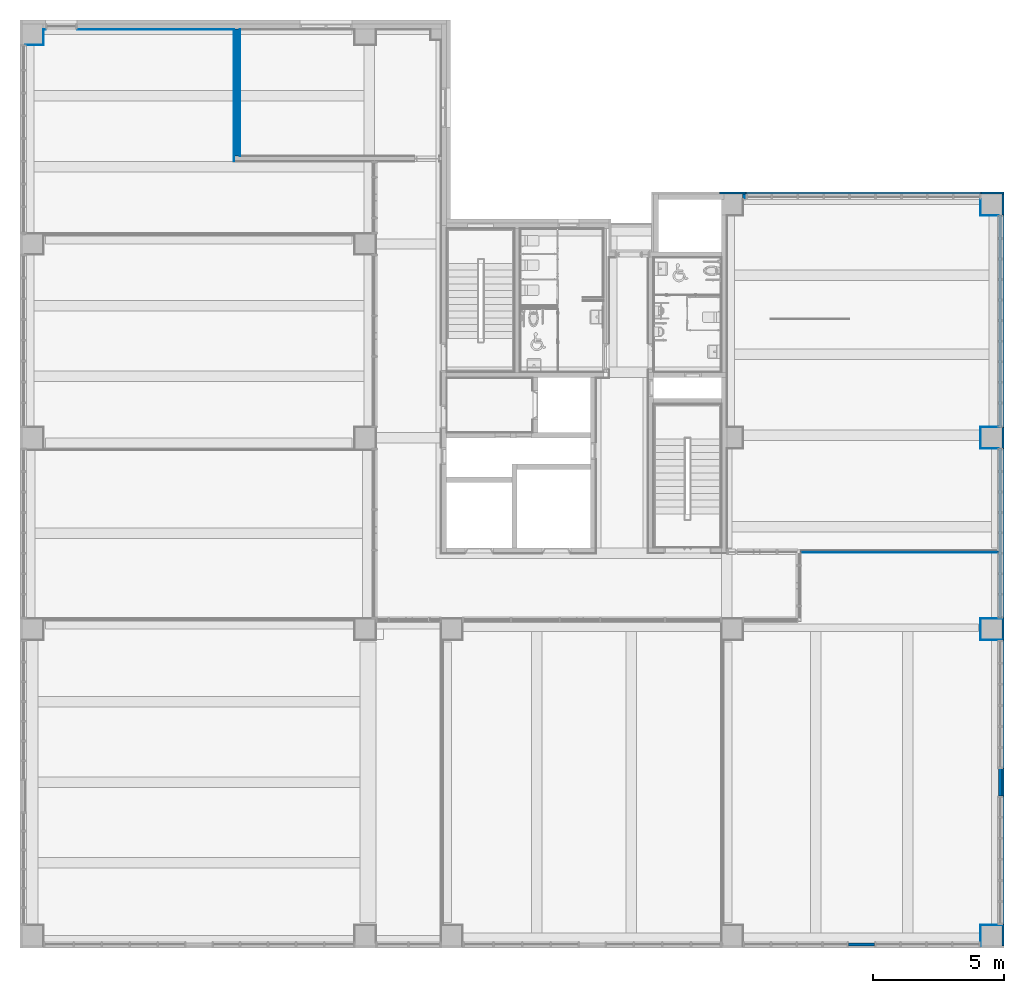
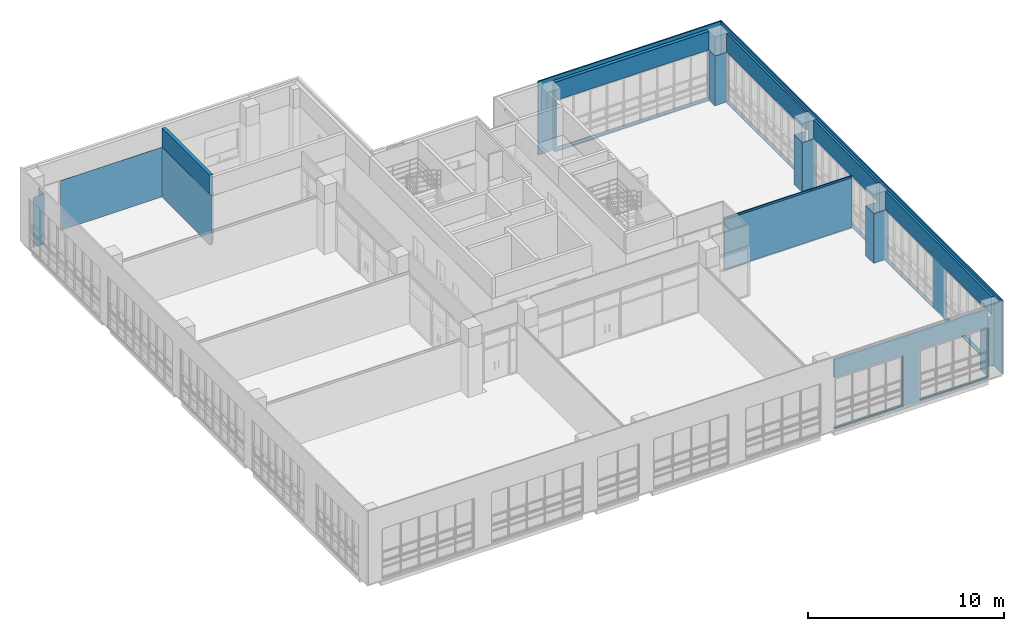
# One storey, part 62 of 74: 25 walls, 14 openings.
"""IFC2X3 building model written with IfcOpenShell, lengths in millimetres."""

import ifcopenshell
import ifcopenshell.guid

model = None  # the IFC model being written
_history = None  # IfcOwnerHistory: only IFC2X3 demands one
_inside = {}  # id of a spatial element -> (the spatial element, [elements in it])
_under = {}  # id of a project, library or spatial element -> (it, [spatial elements below it])
_declared = {}  # id of a project -> (the project, [libraries it declares])
_typed = {}  # id of a type object -> (the type object, [elements of that type])
_made_of = {}  # id of a material, layer set ... -> (it, [elements and type objects made of it])


def new_model(schema):
    """Start an empty IFC model of exactly this schema.

    Asked for "IFC4X3", IfcOpenShell would pick the latest addendum, in which some entities
    have other attributes; the version numbers below select the first issue.
    IFC2X3 requires an IfcOwnerHistory on every rooted entity: one is made here for all.
    """
    global model, _history
    if schema == "IFC4X3":
        model = ifcopenshell.file(schema_version=(4, 3, 0, 0))
    else:
        model = ifcopenshell.file(schema=schema)
    _inside.clear()
    _under.clear()
    _declared.clear()
    _typed.clear()
    _made_of.clear()
    _history = None
    if model.schema == "IFC2X3":
        org = make("IfcOrganization", Name="unknown")
        user = make(
            "IfcPersonAndOrganization",
            ThePerson=make("IfcPerson", FamilyName="unknown"),
            TheOrganization=org,
        )
        app = make(
            "IfcApplication",
            ApplicationDeveloper=org,
            Version="unknown",
            ApplicationFullName="unknown",
            ApplicationIdentifier="unknown",
        )
        _history = make(
            "IfcOwnerHistory",
            OwningUser=user,
            OwningApplication=app,
            ChangeAction="ADDED",
            CreationDate=0,
        )
    return model


def make(cls, **values):
    """One entity of the class cls with the attributes given. An attribute that is None is left unset."""
    return model.create_entity(
        cls, **{name: value for name, value in values.items() if value is not None}
    )


def entity(cls, *values):
    """Any entity or typed value of the class cls, its attributes in the order of the schema. None: left unset."""
    e = model.create_entity(cls)
    for i, value in enumerate(values):
        if value is not None:
            e[i] = value
    return e


def rooted(cls, **values):
    """An entity with a GlobalId (a new one), such as an element, a storey or a relation."""
    return make(cls, GlobalId=ifcopenshell.guid.new(), OwnerHistory=_history, **values)


def si_unit(unit_type, name, prefix=None):
    """IfcSIUnit, for example si_unit("LENGTHUNIT", "METRE", prefix="MILLI")."""
    return make("IfcSIUnit", UnitType=unit_type, Prefix=prefix, Name=name)


def converted_unit(unit_type, name, factor, base, dimensions=None, offset=None):
    """IfcConversionBasedUnit, such as the inch: factor (a typed value) times the base unit."""
    return make(
        "IfcConversionBasedUnit"
        if offset is None
        else "IfcConversionBasedUnitWithOffset",
        ConversionOffset=offset,
        Dimensions=None
        if dimensions is None
        else entity("IfcDimensionalExponents", *dimensions),
        UnitType=unit_type,
        Name=name,
        ConversionFactor=make(
            "IfcMeasureWithUnit", ValueComponent=factor, UnitComponent=base
        ),
    )


def derived_unit(unit_type, elements):
    """IfcDerivedUnit: a product of units, each with its exponent."""
    return make(
        "IfcDerivedUnit",
        Elements=[
            make("IfcDerivedUnitElement", Unit=unit, Exponent=power)
            for unit, power in elements
        ],
        UnitType=unit_type,
    )


def assignment(units):
    """IfcUnitAssignment: the units of a project."""
    return None if units is None else make("IfcUnitAssignment", Units=units)


def point(xyz):
    """IfcCartesianPoint."""
    return None if xyz is None else make("IfcCartesianPoint", Coordinates=xyz)


def direction(xyz):
    """IfcDirection."""
    return None if xyz is None else make("IfcDirection", DirectionRatios=xyz)


def frame(location, z_axis=None, x_axis=None):
    """IfcAxis2Placement3D, a coordinate frame: its origin and axes. An axis left out is left unset."""
    return make(
        "IfcAxis2Placement3D",
        Location=point(location),
        Axis=direction(z_axis),
        RefDirection=direction(x_axis),
    )


def frame_2d(location, x_axis=None):
    """IfcAxis2Placement2D, a coordinate frame in the plane: its origin and x axis."""
    return make(
        "IfcAxis2Placement2D", Location=point(location), RefDirection=direction(x_axis)
    )


def origin():
    """The frame at (0, 0, 0) with its axes left unset."""
    return frame((0.0, 0.0, 0.0))


def place(relative_to, where):
    """IfcLocalPlacement: puts the frame where relative to a parent placement (None: the world)."""
    return make(
        "IfcLocalPlacement", PlacementRelTo=relative_to, RelativePlacement=where
    )


def context(
    kind, dimensions, precision=None, world=None, true_north=None, identifier=None
):
    """IfcGeometricRepresentationContext, for example the 3D "Model" context."""
    return make(
        "IfcGeometricRepresentationContext",
        ContextIdentifier=identifier,
        ContextType=kind,
        CoordinateSpaceDimension=dimensions,
        Precision=precision,
        WorldCoordinateSystem=world,
        TrueNorth=true_north,
    )


def subcontext(parent, identifier, kind, view, scale=None):
    """IfcGeometricRepresentationSubContext, for example "Body" below "Model"."""
    return make(
        "IfcGeometricRepresentationSubContext",
        ContextIdentifier=identifier,
        ContextType=kind,
        ParentContext=parent,
        TargetScale=scale,
        TargetView=view,
    )


def project(units=None, contexts=None):
    """IfcProject with its units and contexts."""
    return rooted(
        "IfcProject",
        Name="project",
        RepresentationContexts=contexts,
        UnitsInContext=assignment(units),
    )


def spatial(cls, under=None, at=None, **own):
    """A site, building, storey or space (cls), placed at a placement, below another one or the project."""
    s = rooted(cls, ObjectPlacement=at, **own)
    if under is not None:
        _under.setdefault(under.id(), (under, []))[1].append(s)
    return s


def polyline(points):
    """IfcPolyline through the points."""
    return make("IfcPolyline", Points=[point(p) for p in points])


def profile(cls, at=None, kind="AREA", **sizes):
    """A parametric profile (cls). Its sizes go by their IFC names, for example OverallWidth=200.0."""
    return make(cls, ProfileType=kind, Position=at, **sizes)


def rectangle(**sizes):
    """IfcRectangleProfileDef."""
    return profile("IfcRectangleProfileDef", **sizes)


def extrude(swept, where, along, depth):
    """IfcExtrudedAreaSolid: the profile swept, set in the frame where, extruded along a direction by depth."""
    return make(
        "IfcExtrudedAreaSolid",
        SweptArea=swept,
        Position=where,
        ExtrudedDirection=direction(along),
        Depth=depth,
    )


def clip(a, b, op="DIFFERENCE"):
    """IfcBooleanClippingResult: the solid a cut by the half space b."""
    return make(
        "IfcBooleanClippingResult", Operator=op, FirstOperand=a, SecondOperand=b
    )


def bounded_halfspace(plane, agree, where, boundary):
    """IfcPolygonalBoundedHalfSpace: a half space limited to a polygon's prism."""
    return make(
        "IfcPolygonalBoundedHalfSpace",
        BaseSurface=make("IfcPlane", Position=plane),
        AgreementFlag=agree,
        Position=where,
        PolygonalBoundary=boundary,
    )


def shape(context_of_items, identifier, shape_type, items):
    """IfcShapeRepresentation: the items that make up one representation, for example the "Body"."""
    return make(
        "IfcShapeRepresentation",
        ContextOfItems=context_of_items,
        RepresentationIdentifier=identifier,
        RepresentationType=shape_type,
        Items=items,
    )


def material(Name=None, Category=None):
    """IfcMaterial."""
    return make("IfcMaterial", Name=Name, Category=Category)


def layer(
    of_material, thickness, ventilated=None, Name=None, Category=None, Priority=None
):
    """IfcMaterialLayer: one layer of a wall or slab, of a material (None: an air gap)."""
    return make(
        "IfcMaterialLayer",
        Material=of_material,
        LayerThickness=thickness,
        IsVentilated=ventilated,
        Name=Name,
        Category=Category,
        Priority=Priority,
    )


def layer_set(layers, Name=None):
    """IfcMaterialLayerSet."""
    return make("IfcMaterialLayerSet", MaterialLayers=layers, LayerSetName=Name)


def layer_usage(for_layer_set, set_direction, sense, offset, extent=None):
    """IfcMaterialLayerSetUsage: how a layer set lies in its element."""
    return make(
        "IfcMaterialLayerSetUsage",
        ForLayerSet=for_layer_set,
        LayerSetDirection=set_direction,
        DirectionSense=sense,
        OffsetFromReferenceLine=offset,
        ReferenceExtent=extent,
    )


def made_of(thing, what):
    """Note that an element or type object is made of a material, layer set ...; save() writes the relation."""
    if what is not None:
        _made_of.setdefault(what.id(), (what, []))[1].append(thing)
    return thing


def type_object(cls, material=None, **own):
    """A type object (cls), such as IfcWallType, which elements share."""
    return made_of(rooted(cls, **own), material)


def element(
    cls,
    number,
    at=None,
    inside=None,
    cuts=None,
    type_object=None,
    material=None,
    context=None,
    identifier="Body",
    shape_type=None,
    held_by="IfcProductDefinitionShape",
    body=None,
    shapes=None,
    **own,
):
    """One element of the class cls, such as IfcWall. Its Tag is "e" and its number.

    at: its placement. inside: the storey or other place that contains it. cuts: it is an
    opening in that element (IfcRelVoidsElement). A single representation is given by context,
    identifier, shape_type and body (its items); several are given by shapes. held_by: the class
    of the entity that holds the representations. save() writes the other relations.
    """
    e = rooted(cls, Tag="e%d" % number, ObjectPlacement=at, **own)
    if body is not None:
        shapes = [shape(context, identifier, shape_type, body)]
    if shapes is not None:
        e.Representation = make(held_by, Representations=shapes)
    if inside is not None:
        _inside.setdefault(inside.id(), (inside, []))[1].append(e)
    if cuts is not None:
        rooted(
            "IfcRelVoidsElement", RelatingBuildingElement=cuts, RelatedOpeningElement=e
        )
    if type_object is not None:
        _typed.setdefault(type_object.id(), (type_object, []))[1].append(e)
    return made_of(e, material)


def aggregate(whole, parts):
    """IfcRelAggregates: a whole, such as a stair, and the parts it consists of."""
    return rooted("IfcRelAggregates", RelatingObject=whole, RelatedObjects=parts)


def save(model, path):
    """Write the relations noted so far, then the file.

    IfcRelAggregates (storeys below a building ...), IfcRelContainedInSpatialStructure (elements
    in a storey), IfcRelDefinesByType, IfcRelAssociatesMaterial and IfcRelDeclares: one each for
    every whole, place, type object, material and project.
    """
    for whole, parts in _under.values():
        aggregate(whole, parts)
    for where, things in _inside.values():
        rooted(
            "IfcRelContainedInSpatialStructure",
            RelatedElements=things,
            RelatingStructure=where,
        )
    for kind, things in _typed.values():
        rooted("IfcRelDefinesByType", RelatedObjects=things, RelatingType=kind)
    for what, things in _made_of.values():
        rooted("IfcRelAssociatesMaterial", RelatedObjects=things, RelatingMaterial=what)
    for by, libraries in _declared.values():
        rooted("IfcRelDeclares", RelatingContext=by, RelatedDefinitions=libraries)
    model.write(path)


model = new_model("IFC2X3")

# Units and contexts
model_context = context("Model", 3, precision=0.01, world=origin(), true_north=direction((6.123031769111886e-17, 1.0)))
body_context = subcontext(model_context, "Body", "Model", "MODEL_VIEW")
ifc_project = project(units=[si_unit("LENGTHUNIT", "METRE", prefix="MILLI"), si_unit("AREAUNIT", "SQUARE_METRE"), si_unit("VOLUMEUNIT", "CUBIC_METRE"), converted_unit("PLANEANGLEUNIT", "DEGREE", entity("IfcRatioMeasure", 0.017453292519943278), si_unit("PLANEANGLEUNIT", "RADIAN"), dimensions=[0, 0, 0, 0, 0, 0, 0]), si_unit("MASSUNIT", "GRAM", prefix="KILO"), derived_unit("MASSDENSITYUNIT", [(si_unit("MASSUNIT", "GRAM", prefix="KILO"), 1), (si_unit("LENGTHUNIT", "METRE"), -3)]), derived_unit("MOMENTOFINERTIAUNIT", [(si_unit("LENGTHUNIT", "METRE"), 4)]), si_unit("TIMEUNIT", "SECOND"), si_unit("FREQUENCYUNIT", "HERTZ"), si_unit("THERMODYNAMICTEMPERATUREUNIT", "DEGREE_CELSIUS"), derived_unit("THERMALTRANSMITTANCEUNIT", [(si_unit("MASSUNIT", "GRAM", prefix="KILO"), 1), (si_unit("THERMODYNAMICTEMPERATUREUNIT", "KELVIN"), -1), (si_unit("TIMEUNIT", "SECOND"), -3)]), derived_unit("VOLUMETRICFLOWRATEUNIT", [(si_unit("LENGTHUNIT", "METRE"), 3), (si_unit("TIMEUNIT", "SECOND"), -1)]), derived_unit("MASSFLOWRATEUNIT", [(si_unit("MASSUNIT", "GRAM", prefix="KILO"), 1), (si_unit("TIMEUNIT", "SECOND"), -1)]), derived_unit("ROTATIONALFREQUENCYUNIT", [(si_unit("TIMEUNIT", "SECOND"), -1)]), si_unit("ELECTRICCURRENTUNIT", "AMPERE"), si_unit("ELECTRICVOLTAGEUNIT", "VOLT"), si_unit("POWERUNIT", "WATT"), si_unit("FORCEUNIT", "NEWTON", prefix="KILO"), si_unit("ILLUMINANCEUNIT", "LUX"), si_unit("LUMINOUSFLUXUNIT", "LUMEN"), si_unit("LUMINOUSINTENSITYUNIT", "CANDELA"), derived_unit("USERDEFINED", [(si_unit("MASSUNIT", "GRAM", prefix="KILO"), -1), (si_unit("LENGTHUNIT", "METRE"), -2), (si_unit("TIMEUNIT", "SECOND"), 3), (si_unit("LUMINOUSFLUXUNIT", "LUMEN"), 1)]), derived_unit("SOUNDPOWERUNIT", [(si_unit("MASSUNIT", "GRAM", prefix="KILO"), 1), (si_unit("LENGTHUNIT", "METRE"), 2), (si_unit("TIMEUNIT", "SECOND"), -3)]), derived_unit("SOUNDPRESSUREUNIT", [(si_unit("MASSUNIT", "GRAM", prefix="KILO"), 1), (si_unit("LENGTHUNIT", "METRE"), -1), (si_unit("TIMEUNIT", "SECOND"), -2)]), derived_unit("LINEARVELOCITYUNIT", [(si_unit("LENGTHUNIT", "METRE"), 1), (si_unit("TIMEUNIT", "SECOND"), -1)]), si_unit("PRESSUREUNIT", "PASCAL"), derived_unit("USERDEFINED", [(si_unit("LENGTHUNIT", "METRE"), -2), (si_unit("MASSUNIT", "GRAM", prefix="KILO"), 1), (si_unit("TIMEUNIT", "SECOND"), -2)]), derived_unit("LINEARFORCEUNIT", [(si_unit("MASSUNIT", "GRAM", prefix="KILO"), 1), (si_unit("LENGTHUNIT", "METRE"), 1), (si_unit("TIMEUNIT", "SECOND"), -2), (si_unit("LENGTHUNIT", "METRE"), -1)]), derived_unit("PLANARFORCEUNIT", [(si_unit("MASSUNIT", "GRAM", prefix="KILO"), 1), (si_unit("LENGTHUNIT", "METRE"), 1), (si_unit("TIMEUNIT", "SECOND"), -2), (si_unit("LENGTHUNIT", "METRE"), -2)])], contexts=[model_context])

# Site, building, storey
site_placement = place(None, frame((-14167.972527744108, -657.2125860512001, 0.0)))
site = spatial("IfcSite", under=ifc_project, at=site_placement, Name="Default", CompositionType="ELEMENT")
building_placement = place(site_placement, origin())
building = spatial("IfcBuilding", under=site, at=building_placement, Name="Sample Building", CompositionType="ELEMENT")
storey_placement = place(building_placement, frame((0.0, 0.0, 4800.0)))
storey = spatial("IfcBuildingStorey", under=building, at=storey_placement, Name="지상 2층", CompositionType="ELEMENT", Elevation=4800.000000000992)

# Wall, opening
ifc_material_1 = material(Name="KBIMS-콘크리트")
ifc_layer_1 = layer(ifc_material_1, 200.0)
ifc_layer_set_1 = layer_set([ifc_layer_1], Name="기본 벽:WA111-철근콘크리트구조 벽 200mm_CW1")
ifc_layer_usage_1 = layer_usage(ifc_layer_set_1, "AXIS2", "NEGATIVE", 100.0)
wall_type_1 = type_object("IfcWallType", Name="기본 벽:WA111-철근콘크리트구조 벽 200mm_CW1", PredefinedType="STANDARD", material=ifc_layer_set_1)
wall_1_placement = place(storey_placement, frame((41567.972491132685, 29157.212295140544, -1.9340006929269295e-09)))
wall_1 = element("IfcWallStandardCase", 1, at=wall_1_placement, inside=storey, type_object=wall_type_1, material=ifc_layer_usage_1, Name="기본 벽:WA111-철근콘크리트구조 벽 200mm_CW1", ObjectType="기본 벽:WA111-철근콘크리트구조 벽 200mm_CW1", context=body_context, shape_type="Clipping", body=[
    clip(extrude(rectangle(XDim=9100.008723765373, YDim=199.99999999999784, at=frame_2d((4550.004361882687, 0.0), x_axis=(-1.0, 0.0))), origin(), (0.0, 0.0, 1.0), 4350.000000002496), bounded_halfspace(frame((0.0, -100.0, 4350.0), z_axis=(0.0, 0.0, -1.0), x_axis=(0.0, -1.0, 0.0)), True, frame((0.0, -100.0, 4350.0), z_axis=(0.0, 0.0, -1.0), x_axis=(0.0, -1.0, 0.0)), polyline([(0.0, 0.0), (-60960.0, 0.0), (-60960.0, -2773682.6590036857), (1.5757882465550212e-08, -2773682.6590036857), (0.0, 0.0)]))),
])
opening_1_placement = place(wall_1_placement, origin())
element("IfcOpeningElement", 2, at=opening_1_placement, cuts=wall_1, Name="기본 벽:WA111-철근콘크리트구조 벽 200mm_CW1", ObjectType="Opening", context=body_context, shape_type="SweptSolid", body=[
    extrude(rectangle(XDim=3120.0000000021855, YDim=8970.434556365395, at=frame_2d((0.0, -5.684341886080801e-13), x_axis=(0.0, 1.0))), frame((4614.79144558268, -252.3999999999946, 1640.0), z_axis=(0.0, 1.0, 0.0), x_axis=(-1.0, 0.0, 0.0)), (0.0, 0.0, 1.0), 504.79999999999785),
])

# Wall
ifc_layer_usage_2 = layer_usage(ifc_layer_set_1, "AXIS2", "NEGATIVE", 100.0)
wall_2_placement = place(storey_placement, frame((22267.972491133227, 35557.21229514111, 0.0), z_axis=(0.0, 0.0, 1.0), x_axis=(0.0, -1.0, 0.0)))
element("IfcWallStandardCase", 3, at=wall_2_placement, inside=storey, type_object=wall_type_1, material=ifc_layer_usage_2, Name="기본 벽:WA111-철근콘크리트구조 벽 200mm_CW1", ObjectType="기본 벽:WA111-철근콘크리트구조 벽 200mm_CW1", context=body_context, shape_type="Clipping", body=[
    clip(extrude(rectangle(XDim=4850.00001989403, YDim=199.99999999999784, at=frame_2d((2425.000009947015, -4.263256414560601e-14), x_axis=(-1.0, 0.0))), origin(), (0.0, 0.0, 1.0), 4350.0000000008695), bounded_halfspace(frame((0.0, -100.0, 4350.0), z_axis=(0.0, 0.0, -1.0), x_axis=(0.0, 1.0, 0.0)), True, frame((0.0, -100.0, 4350.0), z_axis=(0.0, 0.0, -1.0), x_axis=(0.0, 1.0, 0.0)), polyline([(0.0, 0.0), (60960.0, 0.0), (60960.0, 1478280.0060637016), (2.6378643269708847e-09, 1478280.0060637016), (0.0, 0.0)]))),
])

# Wall, openings
ifc_material_2 = material(Name="KBIMS-화강석 잔다듬")
ifc_layer_2 = layer(ifc_material_2, 80.0)
ifc_layer_set_2 = layer_set([ifc_layer_2], Name="기본 벽:WA313-화강석잔다듬 벽 (30, 건식50) 80mm")
ifc_layer_usage_3 = layer_usage(ifc_layer_set_2, "AXIS2", "POSITIVE", -40.0)
wall_type_2 = type_object("IfcWallType", Name="기본 벽:WA313-화강석잔다듬 벽 (30, 건식50) 80mm", PredefinedType="STANDARD", material=ifc_layer_set_2)
wall_3_placement = place(storey_placement, frame((51507.96382893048, 557.2121951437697, -1.9340006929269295e-09), z_axis=(0.0, 0.0, 1.0), x_axis=(0.0, 1.0, 0.0)))
wall_3 = element("IfcWallStandardCase", 4, at=wall_3_placement, inside=storey, type_object=wall_type_2, material=ifc_layer_usage_3, Name="기본 벽:WA313-화강석잔다듬 벽 (30, 건식50) 80mm", ObjectType="기본 벽:WA313-화강석잔다듬 벽 (30, 건식50) 80mm", context=body_context, shape_type="SweptSolid", body=[
    extrude(rectangle(XDim=28700.000099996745, YDim=79.99999999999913, at=frame_2d((14350.000049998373, 0.0), x_axis=(-1.0, 0.0))), origin(), (0.0, 0.0, 1.0), 4580.0000000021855),
])
opening_2_placement = place(wall_3_placement, origin())
element("IfcOpeningElement", 5, at=opening_2_placement, cuts=wall_3, Name="기본 벽:WA313-화강석잔다듬 벽 (30, 건식50) 80mm", ObjectType="Opening", context=body_context, shape_type="SweptSolid", body=[
    extrude(rectangle(XDim=3120.0000000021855, YDim=4907.000278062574, at=frame_2d((-5.684341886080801e-13, 0.0), x_axis=(1.0, 0.0))), frame((3271.5002518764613, -192.39999999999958, 1640.0), z_axis=(0.0, 1.0, 0.0), x_axis=(0.0, 0.0, 1.0)), (0.0, 0.0, 1.0), 384.79999999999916),
])
opening_3_placement = place(wall_3_placement, origin())
element("IfcOpeningElement", 6, at=opening_3_placement, cuts=wall_3, Name="기본 벽:WA313-화강석잔다듬 벽 (30, 건식50) 80mm", ObjectType="Opening", context=body_context, shape_type="SweptSolid", body=[
    extrude(rectangle(XDim=3120.0000000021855, YDim=4907.00014383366, at=frame_2d((-5.684341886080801e-13, 0.0), x_axis=(1.0, 0.0))), frame((9228.500462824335, -192.39999999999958, 1640.0), z_axis=(0.0, 1.0, 0.0), x_axis=(0.0, 0.0, 1.0)), (0.0, 0.0, 1.0), 384.79999999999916),
])
opening_4_placement = place(wall_3_placement, origin())
element("IfcOpeningElement", 7, at=opening_4_placement, cuts=wall_3, Name="기본 벽:WA313-화강석잔다듬 벽 (30, 건식50) 80mm", ObjectType="Opening", context=body_context, shape_type="SweptSolid", body=[
    extrude(rectangle(XDim=3120.0000000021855, YDim=6481.999578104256, at=frame_2d((-5.684341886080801e-13, -1.1368683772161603e-12), x_axis=(1.0, 0.0))), frame((15759.000323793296, -192.39999999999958, 1640.0), z_axis=(0.0, 1.0, 0.0), x_axis=(0.0, 0.0, 1.0)), (0.0, 0.0, 1.0), 384.79999999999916),
])
opening_5_placement = place(wall_3_placement, origin())
element("IfcOpeningElement", 8, at=opening_5_placement, cuts=wall_3, Name="기본 벽:WA313-화강석잔다듬 벽 (30, 건식50) 80mm", ObjectType="Opening", context=body_context, shape_type="SweptSolid", body=[
    extrude(rectangle(XDim=3120.0000000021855, YDim=8100.0003969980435, at=frame_2d((-5.684341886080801e-13, -2.2737367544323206e-12), x_axis=(1.0, 0.0))), frame((23850.000311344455, -192.39999999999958, 1640.0), z_axis=(0.0, 1.0, 0.0), x_axis=(0.0, 0.0, 1.0)), (0.0, 0.0, 1.0), 384.79999999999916),
])

# Wall, opening
ifc_layer_usage_4 = layer_usage(ifc_layer_set_2, "AXIS2", "POSITIVE", -40.0)
wall_4_placement = place(storey_placement, frame((51547.96382893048, 29297.212295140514, -1.9340006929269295e-09), z_axis=(0.0, 0.0, 1.0), x_axis=(-1.0, 0.0, 0.0)))
wall_4 = element("IfcWallStandardCase", 9, at=wall_4_placement, inside=storey, type_object=wall_type_2, material=ifc_layer_usage_4, Name="기본 벽:WA313-화강석잔다듬 벽 (30, 건식50) 80mm", ObjectType="기본 벽:WA313-화강석잔다듬 벽 (30, 건식50) 80mm", context=body_context, shape_type="SweptSolid", body=[
    extrude(rectangle(XDim=10855.000030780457, YDim=79.99999999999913, at=frame_2d((5427.500015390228, 0.0), x_axis=(-1.0, 0.0))), origin(), (0.0, 0.0, 1.0), 4580.0000000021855),
])
opening_6_placement = place(wall_4_placement, origin())
element("IfcOpeningElement", 10, at=opening_6_placement, cuts=wall_4, Name="기본 벽:WA313-화강석잔다듬 벽 (30, 건식50) 80mm", ObjectType="Opening", context=body_context, shape_type="SweptSolid", body=[
    extrude(rectangle(XDim=3120.0000000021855, YDim=8970.434556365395, at=frame_2d((-5.684341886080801e-13, 0.0), x_axis=(1.0, 0.0))), frame((5365.199892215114, -192.39999999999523, 1640.0), z_axis=(0.0, 1.0, 0.0), x_axis=(0.0, 0.0, 1.0)), (0.0, 0.0, 1.0), 384.79999999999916),
])

ifc_material_3 = material(Name="KBIMS-DRY WALL")
ifc_layer_3 = layer(ifc_material_3, 12.5)
ifc_material_4 = material(Name="KBIMS-경량철골벽틀")
ifc_layer_4 = layer(ifc_material_4, 50.0)
ifc_layer_set_3 = layer_set([ifc_layer_3, ifc_layer_4], Name="기본 벽:WA731-DRY WALL(C50, GS12.5mm) (1겹한면, GW50mm) 62.5mm")
ifc_layer_usage_5 = layer_usage(ifc_layer_set_3, "AXIS2", "NEGATIVE", 31.250000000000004)
wall_type_3 = type_object("IfcWallType", Name="기본 벽:WA731-DRY WALL(C50, GS12.5mm) (1겹한면, GW50mm) 62.5mm", PredefinedType="STANDARD", material=ifc_layer_set_3)
wall_5_placement = place(storey_placement, frame((43767.972491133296, 15620.927678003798, -1.9334592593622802e-09)))
wall_5 = element("IfcWallStandardCase", 11, at=wall_5_placement, inside=storey, type_object=wall_type_3, material=ifc_layer_usage_5, Name="기본 벽:WA731-DRY WALL(C50, GS12.5mm) (1겹한면, GW50mm) 62.5mm", ObjectType="기본 벽:WA731-DRY WALL(C50, GS12.5mm) (1겹한면, GW50mm) 62.5mm", context=body_context, shape_type="SweptSolid", body=[
    extrude(rectangle(XDim=7537.491337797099, YDim=62.50000000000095, at=frame_2d((3768.7456688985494, -1.4477308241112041e-12), x_axis=(-1.0, 0.0))), origin(), (0.0, 0.0, 1.0), 3300.000000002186),
])
opening_7_placement = place(wall_5_placement, origin())
element("IfcOpeningElement", 12, at=opening_7_placement, cuts=wall_5, Name="기본 벽:WA731-DRY WALL(C50, GS12.5mm) (1겹한면, GW50mm) 62.5mm", ObjectType="Opening", context=body_context, shape_type="SweptSolid", body=[
    extrude(rectangle(XDim=3020.000000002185, YDim=2818.0086929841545, at=frame_2d((0.0, 0.0), x_axis=(0.0, 1.0))), frame((-1391.0043464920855, -183.65000000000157, 1590.0), z_axis=(0.0, 1.0, 0.0), x_axis=(-1.0, 0.0, 0.0)), (0.0, 0.0, 1.0), 367.300000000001),
])

# Wall, openings
ifc_layer_5 = layer(ifc_material_1, 125.00000000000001)
ifc_layer_set_4 = layer_set([ifc_layer_5], Name="기본 벽:WA111-철근콘크리트구조 벽 125mm_W3")
ifc_layer_usage_6 = layer_usage(ifc_layer_set_4, "AXIS2", "NEGATIVE", 62.50000000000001)
wall_type_4 = type_object("IfcWallType", Name="기본 벽:WA111-철근콘크리트구조 벽 125mm_W3", PredefinedType="STANDARD", material=ifc_layer_set_4)
wall_6_placement = place(storey_placement, frame((41585.972491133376, 619.7122951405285, -1.9340006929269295e-09)))
wall_6 = element("IfcWallStandardCase", 13, at=wall_6_placement, inside=storey, type_object=wall_type_4, material=ifc_layer_usage_6, Name="기본 벽:WA111-철근콘크리트구조 벽 125mm_W3", ObjectType="기본 벽:WA111-철근콘크리트구조 벽 125mm_W3", context=body_context, shape_type="Clipping", body=[
    clip(extrude(rectangle(XDim=9064.008696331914, YDim=124.99999999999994, at=frame_2d((4532.004348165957, 1.4210854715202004e-14), x_axis=(-1.0, 0.0))), origin(), (0.0, 0.0, 1.0), 4350.000000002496), bounded_halfspace(frame((0.0, -62.50000000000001, 4350.0), z_axis=(0.0, 0.0, -1.0), x_axis=(0.0, -1.0, 0.0)), True, frame((0.0, -62.50000000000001, 4350.0), z_axis=(0.0, 0.0, -1.0), x_axis=(0.0, -1.0, 0.0)), polyline([(0.0, 0.0), (-38100.0, 0.0), (-38100.0, -2762709.8506419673), (-1.0183282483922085e-08, -2762709.850641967), (0.0, 0.0)]))),
])
opening_8_placement = place(wall_6_placement, origin())
element("IfcOpeningElement", 14, at=opening_8_placement, cuts=wall_6, Name="기본 벽:WA111-철근콘크리트구조 벽 125mm_W3", ObjectType="Opening", context=body_context, shape_type="SweptSolid", body=[
    extrude(rectangle(XDim=3120.0000000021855, YDim=4026.098781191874, at=frame_2d((-5.684341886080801e-13, 0.0), x_axis=(1.0, 0.0))), frame((2013.0493905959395, -214.89999999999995, 1640.0), z_axis=(0.0, 1.0, 0.0), x_axis=(0.0, 0.0, 1.0)), (0.0, 0.0, 1.0), 429.79999999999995),
])
opening_9_placement = place(wall_6_placement, origin())
element("IfcOpeningElement", 15, at=opening_9_placement, cuts=wall_6, Name="기본 벽:WA111-철근콘크리트구조 벽 125mm_W3", ObjectType="Opening", context=body_context, shape_type="SweptSolid", body=[
    extrude(rectangle(XDim=3120.0000000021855, YDim=4039.1588810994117, at=frame_2d((-5.684341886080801e-13, 0.0), x_axis=(1.0, 0.0))), frame((7044.429255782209, -214.9, 1640.0), z_axis=(0.0, 1.0, 0.0), x_axis=(0.0, 0.0, 1.0)), (0.0, 0.0, 1.0), 429.79999999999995),
])

ifc_layer_usage_7 = layer_usage(ifc_layer_set_4, "AXIS2", "NEGATIVE", 62.50000000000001)
wall_7_placement = place(storey_placement, frame((51405.463828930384, 12239.212729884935, -1.9340006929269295e-09), z_axis=(0.0, 0.0, 1.0), x_axis=(0.0, -1.0, 0.0)))
wall_7 = element("IfcWallStandardCase", 16, at=wall_7_placement, inside=storey, type_object=wall_type_4, material=ifc_layer_usage_7, Name="기본 벽:WA111-철근콘크리트구조 벽 125mm_W3", ObjectType="기본 벽:WA111-철근콘크리트구조 벽 125mm_W3", context=body_context, shape_type="Clipping", body=[
    clip(extrude(rectangle(XDim=10864.000421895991, YDim=124.99999999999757, at=frame_2d((5432.000210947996, 4.490630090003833e-12), x_axis=(-1.0, 0.0))), origin(), (0.0, 0.0, 1.0), 4350.000000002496), bounded_halfspace(frame((0.0, -62.49999999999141, 4350.0), z_axis=(0.0, 0.0, -1.0), x_axis=(1.0, 0.0, 0.0)), True, frame((0.0, -62.49999999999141, 4350.0), z_axis=(0.0, 0.0, -1.0), x_axis=(1.0, 0.0, 0.0)), polyline([(0.0, 0.0), (0.0, -38100.0), (3311347.3285938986, -38100.0), (3311347.328593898, -2.021712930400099e-08), (0.0, 0.0)]))),
])
opening_10_placement = place(wall_7_placement, origin())
element("IfcOpeningElement", 17, at=opening_10_placement, cuts=wall_7, Name="기본 벽:WA111-철근콘크리트구조 벽 125mm_W3", ObjectType="Opening", context=body_context, shape_type="SweptSolid", body=[
    extrude(rectangle(XDim=3120.0000000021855, YDim=4907.000278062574, at=frame_2d((0.0, -5.684341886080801e-13), x_axis=(0.0, 1.0))), frame((8410.500282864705, -214.899999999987, 1640.0), z_axis=(0.0, 1.0, 0.0), x_axis=(-1.0, 0.0, 0.0)), (0.0, 0.0, 1.0), 429.79999999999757),
])
opening_11_placement = place(wall_7_placement, origin())
element("IfcOpeningElement", 18, at=opening_11_placement, cuts=wall_7, Name="기본 벽:WA111-철근콘크리트구조 벽 125mm_W3", ObjectType="Opening", context=body_context, shape_type="SweptSolid", body=[
    extrude(rectangle(XDim=3120.0000000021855, YDim=4907.00014383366, at=frame_2d((0.0, -5.684341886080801e-13), x_axis=(0.0, 1.0))), frame((2453.50007191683, -214.89999999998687, 1640.0), z_axis=(0.0, 1.0, 0.0), x_axis=(-1.0, 0.0, 0.0)), (0.0, 0.0, 1.0), 429.79999999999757),
])

# Wall, opening
ifc_layer_usage_8 = layer_usage(ifc_layer_set_4, "AXIS2", "POSITIVE", -62.50000000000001)
wall_8_placement = place(storey_placement, frame((51405.46382893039, 13075.212729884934, -1.9340006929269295e-09), z_axis=(0.0, 0.0, 1.0), x_axis=(0.0, 1.0, 0.0)))
wall_8 = element("IfcWallStandardCase", 19, at=wall_8_placement, inside=storey, type_object=wall_type_4, material=ifc_layer_usage_8, Name="기본 벽:WA111-철근콘크리트구조 벽 125mm_W3", ObjectType="기본 벽:WA111-철근콘크리트구조 벽 125mm_W3", context=body_context, shape_type="Clipping", body=[
    clip(extrude(rectangle(XDim=6481.999578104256, YDim=124.99999999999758, at=frame_2d((3240.99978905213, 4.771294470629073e-12), x_axis=(-1.0, 0.0))), origin(), (0.0, 0.0, 1.0), 4350.000000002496), bounded_halfspace(frame((0.0, -62.49999999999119, 4350.0), z_axis=(0.0, 0.0, -1.0), x_axis=(-1.0, 0.0, 0.0)), True, frame((0.0, -62.49999999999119, 4350.0), z_axis=(0.0, 0.0, -1.0), x_axis=(-1.0, 0.0, 0.0)), polyline([(0.0, 0.0), (0.0, 38100.0), (-1975713.4714061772, 38100.0), (-1975713.4714061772, -3.167169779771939e-08), (0.0, 0.0)]))),
])
opening_12_placement = place(wall_8_placement, origin())
element("IfcOpeningElement", 20, at=opening_12_placement, cuts=wall_8, Name="기본 벽:WA111-철근콘크리트구조 벽 125mm_W3", ObjectType="Opening", context=body_context, shape_type="SweptSolid", body=[
    extrude(rectangle(XDim=3120.0000000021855, YDim=6481.999578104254, at=frame_2d((-5.684341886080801e-13, 2.0463630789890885e-12), x_axis=(1.0, 0.0))), frame((3240.999789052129, -214.89999999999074, 1640.0), z_axis=(0.0, 1.0, 0.0), x_axis=(0.0, 0.0, 1.0)), (0.0, 0.0, 1.0), 429.79999999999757),
])

ifc_layer_usage_9 = layer_usage(ifc_layer_set_4, "AXIS2", "POSITIVE", -62.50000000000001)
wall_9_placement = place(storey_placement, frame((51405.463828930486, 20357.2123079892, -1.9340006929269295e-09), z_axis=(0.0, 0.0, 1.0), x_axis=(0.0, 1.0, 0.0)))
wall_9 = element("IfcWallStandardCase", 21, at=wall_9_placement, inside=storey, type_object=wall_type_4, material=ifc_layer_usage_9, Name="기본 벽:WA111-철근콘크리트구조 벽 125mm_W3", ObjectType="기본 벽:WA111-철근콘크리트구조 벽 125mm_W3", context=body_context, shape_type="Clipping", body=[
    clip(extrude(rectangle(XDim=8101.000087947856, YDim=124.99999999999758, at=frame_2d((4050.500043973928, 2.7071678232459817e-12), x_axis=(-1.0, 0.0))), origin(), (0.0, 0.0, 1.0), 4350.000000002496), bounded_halfspace(frame((0.0, -62.49999999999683, 4350.0), z_axis=(0.0, 0.0, -1.0), x_axis=(-1.0, 0.0, 0.0)), True, frame((0.0, -62.49999999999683, 4350.0), z_axis=(0.0, 0.0, -1.0), x_axis=(-1.0, 0.0, 0.0)), polyline([(0.0, 0.0), (0.0, 38100.0), (-2468880.121005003, 38100.0), (-2469184.826806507, 38100.0), (-2469184.8268065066, -4.13005523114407e-08), (0.0, 0.0)]))),
])
opening_13_placement = place(wall_9_placement, origin())
element("IfcOpeningElement", 22, at=opening_13_placement, cuts=wall_9, Name="기본 벽:WA111-철근콘크리트구조 벽 125mm_W3", ObjectType="Opening", context=body_context, shape_type="SweptSolid", body=[
    extrude(rectangle(XDim=3120.0000000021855, YDim=8100.0003969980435, at=frame_2d((-5.684341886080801e-13, -2.2737367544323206e-12), x_axis=(1.0, 0.0))), frame((4050.000198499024, -214.9000000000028, 1640.0), z_axis=(0.0, 1.0, 0.0), x_axis=(0.0, 0.0, 1.0)), (0.0, 0.0, 1.0), 429.79999999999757),
])

# Walls
ifc_material_5 = material(Name="WA611-수성페인트 (내부) 벽 (3회)")
ifc_layer_6 = layer(ifc_material_5, 1.0)
ifc_material_6 = material(Name="WA551-시멘트모르타르 (내부) 벽 18mm")
ifc_layer_7 = layer(ifc_material_6, 16.0)
ifc_material_7 = material(Name="WA555-콘크리트면정리 벽 (내부)")
ifc_layer_8 = layer(ifc_material_7, 1.0)
ifc_layer_set_5 = layer_set([ifc_layer_6, ifc_layer_7, ifc_layer_8], Name="기본 벽:A1-32-06A-콘크리트면정리, 시멘트모르타르(미장용), 수성페인트(내부) (18mm)")
ifc_layer_usage_10 = layer_usage(ifc_layer_set_5, "AXIS2", "NEGATIVE", 9.000000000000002)
wall_type_5 = type_object("IfcWallType", Name="기본 벽:A1-32-06A-콘크리트면정리, 시멘트모르타르(미장용), 수성페인트(내부) (18mm)", PredefinedType="STANDARD", material=ifc_layer_set_5)
wall_10_placement = place(storey_placement, frame((22376.97249113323, 35557.21229514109, 80.0), z_axis=(0.0, 0.0, 1.0), x_axis=(0.0, -1.0, 0.0)))
element("IfcWallStandardCase", 23, at=wall_10_placement, inside=storey, type_object=wall_type_5, material=ifc_layer_usage_10, Name="기본 벽:A1-32-06A-콘크리트면정리, 시멘트모르타르(미장용), 수성페인트(내부) (18mm)", ObjectType="기본 벽:A1-32-06A-콘크리트면정리, 시멘트모르타르(미장용), 수성페인트(내부) (18mm)", context=body_context, shape_type="SweptSolid", body=[
    extrude(rectangle(XDim=4850.000019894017, YDim=18.000000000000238, at=frame_2d((2425.0000099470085, -1.5569767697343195e-12), x_axis=(-1.0, 0.0))), origin(), (0.0, 0.0, 1.0), 3200.0),
])
ifc_layer_usage_11 = layer_usage(ifc_layer_set_5, "AXIS2", "NEGATIVE", 9.000000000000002)
wall_11_placement = place(storey_placement, frame((22158.972491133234, 30507.212275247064, 80.0), z_axis=(0.0, 0.0, 1.0), x_axis=(0.0, 1.0, 0.0)))
element("IfcWallStandardCase", 24, at=wall_11_placement, inside=storey, type_object=wall_type_5, material=ifc_layer_usage_11, Name="기본 벽:A1-32-06A-콘크리트면정리, 시멘트모르타르(미장용), 수성페인트(내부) (18mm)", ObjectType="기본 벽:A1-32-06A-콘크리트면정리, 시멘트모르타르(미장용), 수성페인트(내부) (18mm)", context=body_context, shape_type="SweptSolid", body=[
    extrude(rectangle(XDim=5050.000019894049, YDim=18.00000000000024, at=frame_2d((2525.0000099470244, -2.1662671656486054e-12), x_axis=(-1.0, 0.0))), origin(), (0.0, 0.0, 1.0), 3100.0000000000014),
])

# Wall, opening
ifc_layer_usage_12 = layer_usage(ifc_layer_set_5, "AXIS2", "NEGATIVE", 9.000000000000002)
wall_12_placement = place(storey_placement, frame((22149.972491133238, 35548.21229514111, 80.0), z_axis=(0.0, 0.0, 1.0), x_axis=(-1.0, 0.0, 0.0)))
wall_12 = element("IfcWallStandardCase", 25, at=wall_12_placement, inside=storey, type_object=wall_type_5, material=ifc_layer_usage_12, Name="기본 벽:A1-32-06A-콘크리트면정리, 시멘트모르타르(미장용), 수성페인트(내부) (18mm)", ObjectType="기본 벽:A1-32-06A-콘크리트면정리, 시멘트모르타르(미장용), 수성페인트(내부) (18mm)", context=body_context, shape_type="SweptSolid", body=[
    extrude(rectangle(XDim=18.00000000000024, YDim=7264.0000366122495, at=frame_2d((3632.0000183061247, -2.1662671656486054e-12), x_axis=(0.0, -1.0))), origin(), (0.0, 0.0, 1.0), 3100.0000000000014),
])
opening_14_placement = place(wall_12_placement, origin())
element("IfcOpeningElement", 26, at=opening_14_placement, cuts=wall_12, Name="기본 벽:A1-32-06A-콘크리트면정리, 시멘트모르타르(미장용), 수성페인트(내부) (18mm)", ObjectType="Opening", context=body_context, shape_type="SweptSolid", body=[
    extrude(rectangle(XDim=3120.0000000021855, YDim=1200.0, at=frame_2d((0.0, -5.684341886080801e-13), x_axis=(0.0, 1.0))), frame((6581.974005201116, -161.40000000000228, 1560.0), z_axis=(0.0, 1.0, 0.0), x_axis=(-1.0, 0.0, 0.0)), (0.0, 0.0, 1.0), 322.80000000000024),
])

# Walls
ifc_layer_usage_13 = layer_usage(ifc_layer_set_5, "AXIS2", "NEGATIVE", 9.000000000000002)
wall_13_placement = place(storey_placement, frame((14876.972454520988, 35557.21229514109, 80.0), z_axis=(0.0, 0.0, 1.0), x_axis=(0.0, -1.0, 0.0)))
element("IfcWallStandardCase", 27, at=wall_13_placement, inside=storey, type_object=wall_type_5, material=ifc_layer_usage_13, Name="기본 벽:A1-32-06A-콘크리트면정리, 시멘트모르타르(미장용), 수성페인트(내부) (18mm)", ObjectType="기본 벽:A1-32-06A-콘크리트면정리, 시멘트모르타르(미장용), 수성페인트(내부) (18mm)", context=body_context, shape_type="SweptSolid", body=[
    extrude(rectangle(XDim=618.0000145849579, YDim=18.000000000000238, at=frame_2d((309.0000072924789, 0.0), x_axis=(-1.0, 0.0))), origin(), (0.0, 0.0, 1.0), 3100.0000000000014),
])
ifc_layer_usage_14 = layer_usage(ifc_layer_set_5, "AXIS2", "NEGATIVE", 9.000000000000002)
wall_14_placement = place(storey_placement, frame((14867.972454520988, 34948.21228055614, 80.0), z_axis=(0.0, 0.0, 1.0), x_axis=(-1.0, 0.0, 0.0)))
element("IfcWallStandardCase", 28, at=wall_14_placement, inside=storey, type_object=wall_type_5, material=ifc_layer_usage_14, Name="기본 벽:A1-32-06A-콘크리트면정리, 시멘트모르타르(미장용), 수성페인트(내부) (18mm)", ObjectType="기본 벽:A1-32-06A-콘크리트면정리, 시멘트모르타르(미장용), 수성페인트(내부) (18mm)", context=body_context, shape_type="SweptSolid", body=[
    extrude(rectangle(XDim=674.9998836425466, YDim=18.00000000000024, at=frame_2d((337.4999418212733, -2.1662671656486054e-12), x_axis=(-1.0, 0.0))), origin(), (0.0, 0.0, 1.0), 3100.0000000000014),
])
ifc_layer_usage_15 = layer_usage(ifc_layer_set_5, "AXIS2", "POSITIVE", -9.000000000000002)
wall_15_placement = place(storey_placement, frame((50658.98121489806, 29057.21229514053, 80.0), z_axis=(0.0, 0.0, 1.0), x_axis=(0.0, -1.0, 0.0)))
element("IfcWallStandardCase", 29, at=wall_15_placement, inside=storey, type_object=wall_type_5, material=ifc_layer_usage_15, Name="기본 벽:A1-32-06A-콘크리트면정리, 시멘트모르타르(미장용), 수성페인트(내부) (18mm)", ObjectType="기본 벽:A1-32-06A-콘크리트면정리, 시멘트모르타르(미장용), 수성페인트(내부) (18mm)", context=body_context, shape_type="SweptSolid", body=[
    extrude(rectangle(XDim=616.999899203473, YDim=17.999999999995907, at=frame_2d((308.4999496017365, 0.0), x_axis=(-1.0, 0.0))), origin(), (0.0, 0.0, 1.0), 3100.0000000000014),
])
ifc_layer_usage_16 = layer_usage(ifc_layer_set_5, "AXIS2", "POSITIVE", -9.000000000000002)
wall_16_placement = place(storey_placement, frame((50667.981214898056, 28449.21239593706, 80.0)))
element("IfcWallStandardCase", 30, at=wall_16_placement, inside=storey, type_object=wall_type_5, material=ifc_layer_usage_16, Name="기본 벽:A1-32-06A-콘크리트면정리, 시멘트모르타르(미장용), 수성페인트(내부) (18mm)", ObjectType="기본 벽:A1-32-06A-콘크리트면정리, 시멘트모르타르(미장용), 수성페인트(내부) (18mm)", context=body_context, shape_type="SweptSolid", body=[
    extrude(rectangle(XDim=674.9826140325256, YDim=18.00000000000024, at=frame_2d((337.4913070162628, -2.1662671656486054e-12), x_axis=(-1.0, 0.0))), origin(), (0.0, 0.0, 1.0), 3100.0000000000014),
])
ifc_layer_usage_17 = layer_usage(ifc_layer_set_5, "AXIS2", "POSITIVE", -9.000000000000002)
wall_17_placement = place(storey_placement, frame((51342.96382893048, 20366.212307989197, 80.0), z_axis=(0.0, 0.0, 1.0), x_axis=(-1.0, 0.0, 0.0)))
element("IfcWallStandardCase", 31, at=wall_17_placement, inside=storey, type_object=wall_type_5, material=ifc_layer_usage_17, Name="기본 벽:A1-32-06A-콘크리트면정리, 시멘트모르타르(미장용), 수성페인트(내부) (18mm)", ObjectType="기본 벽:A1-32-06A-콘크리트면정리, 시멘트모르타르(미장용), 수성페인트(내부) (18mm)", context=body_context, shape_type="SweptSolid", body=[
    extrude(rectangle(XDim=692.9826140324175, YDim=18.00000000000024, at=frame_2d((346.49130701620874, -2.1662671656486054e-12), x_axis=(-1.0, 0.0))), origin(), (0.0, 0.0, 1.0), 3100.0000000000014),
])
ifc_layer_usage_18 = layer_usage(ifc_layer_set_5, "AXIS2", "POSITIVE", -9.000000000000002)
wall_18_placement = place(storey_placement, frame((50658.98121489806, 20357.2123079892, 80.0), z_axis=(0.0, 0.0, 1.0), x_axis=(0.0, -1.0, 0.0)))
element("IfcWallStandardCase", 32, at=wall_18_placement, inside=storey, type_object=wall_type_5, material=ifc_layer_usage_18, Name="기본 벽:A1-32-06A-콘크리트면정리, 시멘트모르타르(미장용), 수성페인트(내부) (18mm)", ObjectType="기본 벽:A1-32-06A-콘크리트면정리, 시멘트모르타르(미장용), 수성페인트(내부) (18mm)", context=body_context, shape_type="SweptSolid", body=[
    extrude(rectangle(XDim=818.000000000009, YDim=17.999999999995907, at=frame_2d((409.0000000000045, 0.0), x_axis=(-1.0, 0.0))), origin(), (0.0, 0.0, 1.0), 3100.0000000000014),
])
ifc_layer_usage_19 = layer_usage(ifc_layer_set_5, "AXIS2", "POSITIVE", -9.000000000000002)
wall_19_placement = place(storey_placement, frame((50667.981214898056, 19548.212307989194, 80.0)))
element("IfcWallStandardCase", 33, at=wall_19_placement, inside=storey, type_object=wall_type_5, material=ifc_layer_usage_19, Name="기본 벽:A1-32-06A-콘크리트면정리, 시멘트모르타르(미장용), 수성페인트(내부) (18mm)", ObjectType="기본 벽:A1-32-06A-콘크리트면정리, 시멘트모르타르(미장용), 수성페인트(내부) (18mm)", context=body_context, shape_type="SweptSolid", body=[
    extrude(rectangle(XDim=674.9826140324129, YDim=18.00000000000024, at=frame_2d((337.49130701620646, -2.1662671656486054e-12), x_axis=(-1.0, 0.0))), origin(), (0.0, 0.0, 1.0), 3100.0000000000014),
])
ifc_layer_usage_20 = layer_usage(ifc_layer_set_5, "AXIS2", "POSITIVE", -9.000000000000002)
wall_20_placement = place(storey_placement, frame((51467.97257087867, 13066.212729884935, 80.0), z_axis=(0.0, 0.0, 1.0), x_axis=(-1.0, 0.0, 0.0)))
element("IfcWallStandardCase", 34, at=wall_20_placement, inside=storey, type_object=wall_type_5, material=ifc_layer_usage_20, Name="기본 벽:A1-32-06A-콘크리트면정리, 시멘트모르타르(미장용), 수성페인트(내부) (18mm)", ObjectType="기본 벽:A1-32-06A-콘크리트면정리, 시멘트모르타르(미장용), 수성페인트(내부) (18mm)", context=body_context, shape_type="SweptSolid", body=[
    extrude(rectangle(XDim=817.9913834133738, YDim=18.00000000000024, at=frame_2d((408.9956917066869, -1.0391687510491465e-13), x_axis=(-1.0, 0.0))), origin(), (0.0, 0.0, 1.0), 3100.0000000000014),
])
ifc_layer_usage_21 = layer_usage(ifc_layer_set_5, "AXIS2", "POSITIVE", -9.000000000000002)
wall_21_placement = place(storey_placement, frame((50658.981187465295, 13057.212729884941, 80.0), z_axis=(0.0, 0.0, 1.0), x_axis=(0.0, -1.0, 0.0)))
element("IfcWallStandardCase", 35, at=wall_21_placement, inside=storey, type_object=wall_type_5, material=ifc_layer_usage_21, Name="기본 벽:A1-32-06A-콘크리트면정리, 시멘트모르타르(미장용), 수성페인트(내부) (18mm)", ObjectType="기본 벽:A1-32-06A-콘크리트면정리, 시멘트모르타르(미장용), 수성페인트(내부) (18mm)", context=body_context, shape_type="SweptSolid", body=[
    extrude(rectangle(XDim=818.0000000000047, YDim=17.999999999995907, at=frame_2d((409.00000000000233, 0.0), x_axis=(-1.0, 0.0))), origin(), (0.0, 0.0, 1.0), 3100.0000000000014),
])
ifc_layer_usage_22 = layer_usage(ifc_layer_set_5, "AXIS2", "POSITIVE", -9.000000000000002)
wall_22_placement = place(storey_placement, frame((50667.981187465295, 12248.212729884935, 80.0)))
element("IfcWallStandardCase", 36, at=wall_22_placement, inside=storey, type_object=wall_type_5, material=ifc_layer_usage_22, Name="기본 벽:A1-32-06A-콘크리트면정리, 시멘트모르타르(미장용), 수성페인트(내부) (18mm)", ObjectType="기본 벽:A1-32-06A-콘크리트면정리, 시멘트모르타르(미장용), 수성페인트(내부) (18mm)", context=body_context, shape_type="SweptSolid", body=[
    extrude(rectangle(XDim=799.9826414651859, YDim=18.000000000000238, at=frame_2d((399.99132073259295, 0.0), x_axis=(-1.0, 0.0))), origin(), (0.0, 0.0, 1.0), 3100.0000000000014),
])
ifc_layer_usage_23 = layer_usage(ifc_layer_set_5, "AXIS2", "POSITIVE", -9.000000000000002)
wall_23_placement = place(storey_placement, frame((51467.963828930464, 1366.212307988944, 80.0), z_axis=(0.0, 0.0, 1.0), x_axis=(-1.0, 0.0, 0.0)))
element("IfcWallStandardCase", 37, at=wall_23_placement, inside=storey, type_object=wall_type_5, material=ifc_layer_usage_23, Name="기본 벽:A1-32-06A-콘크리트면정리, 시멘트모르타르(미장용), 수성페인트(내부) (18mm)", ObjectType="기본 벽:A1-32-06A-콘크리트면정리, 시멘트모르타르(미장용), 수성페인트(내부) (18mm)", context=body_context, shape_type="SweptSolid", body=[
    extrude(rectangle(XDim=817.9826414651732, YDim=17.99999999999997, at=frame_2d((408.9913207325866, 1.4832579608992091e-13), x_axis=(-1.0, 0.0))), origin(), (0.0, 0.0, 1.0), 3100.0000000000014),
])
ifc_layer_usage_24 = layer_usage(ifc_layer_set_5, "AXIS2", "POSITIVE", -9.000000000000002)
wall_24_placement = place(storey_placement, frame((50658.98118746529, 1357.2123079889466, 80.0), z_axis=(0.0, 0.0, 1.0), x_axis=(0.0, -1.0, 0.0)))
element("IfcWallStandardCase", 38, at=wall_24_placement, inside=storey, type_object=wall_type_5, material=ifc_layer_usage_24, Name="기본 벽:A1-32-06A-콘크리트면정리, 시멘트모르타르(미장용), 수성페인트(내부) (18mm)", ObjectType="기본 벽:A1-32-06A-콘크리트면정리, 시멘트모르타르(미장용), 수성페인트(내부) (18mm)", context=body_context, shape_type="SweptSolid", body=[
    extrude(rectangle(XDim=800.0000128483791, YDim=17.999999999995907, at=frame_2d((400.0000064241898, 0.0), x_axis=(-1.0, 0.0))), origin(), (0.0, 0.0, 1.0), 3100.0000000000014),
])
ifc_layer_usage_25 = layer_usage(ifc_layer_set_5, "AXIS2", "POSITIVE", -9.000000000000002)
wall_25_placement = place(storey_placement, frame((43785.97249113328, 15580.677678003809, 80.0)))
element("IfcWallStandardCase", 39, at=wall_25_placement, inside=storey, type_object=wall_type_5, material=ifc_layer_usage_25, Name="기본 벽:A1-32-06A-콘크리트면정리, 시멘트모르타르(미장용), 수성페인트(내부) (18mm)", ObjectType="기본 벽:A1-32-06A-콘크리트면정리, 시멘트모르타르(미장용), 수성페인트(내부) (18mm)", context=body_context, shape_type="SweptSolid", body=[
    extrude(rectangle(XDim=7519.4913377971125, YDim=18.00000000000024, at=frame_2d((3759.7456688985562, -3.907985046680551e-14), x_axis=(-1.0, 0.0))), origin(), (0.0, 0.0, 1.0), 3100.0000000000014),
])

save(model, "model.ifc")
